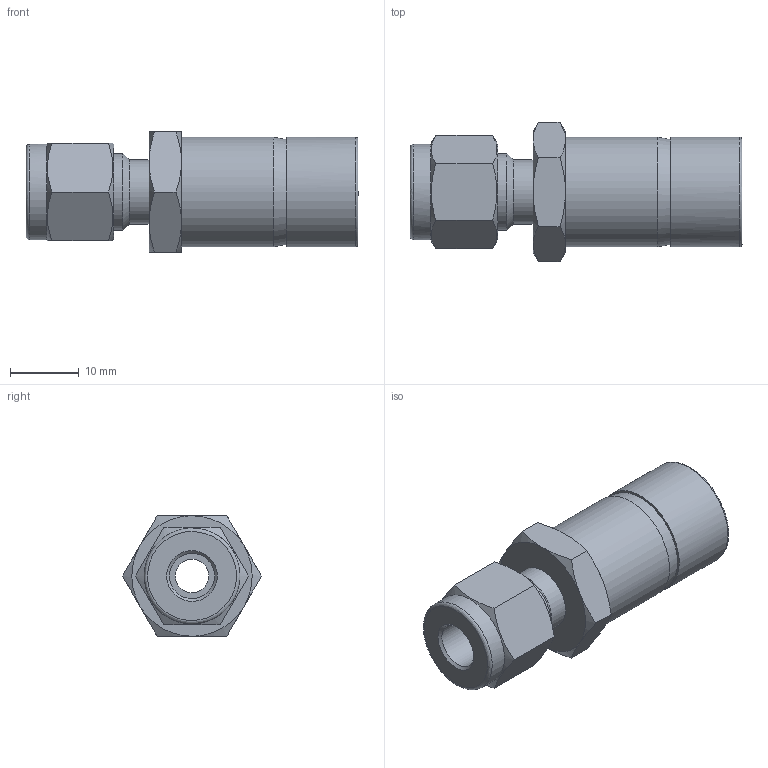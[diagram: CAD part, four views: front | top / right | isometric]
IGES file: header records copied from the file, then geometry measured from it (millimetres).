
Global section: file name: SR-4-10; native system: Autodesk Inventor 2016; preprocessor: unknown; author: DESIGNPC2; date: 20151111.171124; units: millimetre
Bounding box: 48.14 x 20.16 x 17.46 mm (x, y, z)
Volume: 5267.5 mm3; surface area: 4327.7 mm2
Topology: 1 solids, 1 shells, 47 faces, 120 edges, 80 vertices
Faces by surface type: bspline 47
